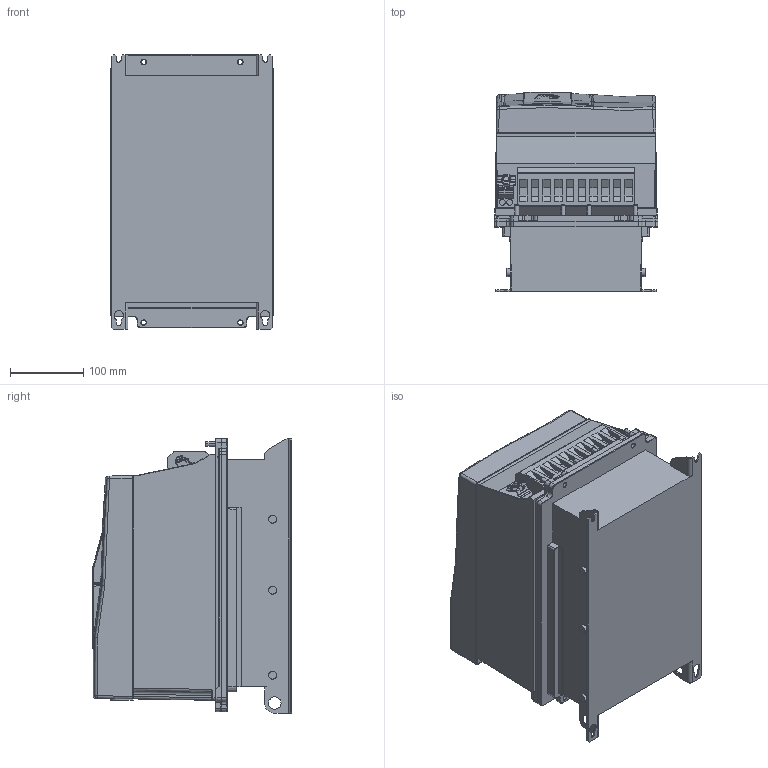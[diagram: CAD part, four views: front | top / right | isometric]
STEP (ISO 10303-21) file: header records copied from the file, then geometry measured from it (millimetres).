
FILE_DESCRIPTION (( 'STEP AP214' ), '1' );
FILE_NAME ('F6-4TR0-K000.STEP', '2020-12-08T11:03:10', ( '' ), ( '' ), 'SwSTEP 2.0', 'SolidWorks 2019', '' );
FILE_SCHEMA (( 'AUTOMOTIVE_DESIGN' ));
Length unit declared in the file: millimetre
Products named in the file (11): 10059764_000_Blindabdeckung (Kundenmodell); 10035735_000_Kundenmodell; 10059765_000; 10058413_000; 10061645_000; F6-4TR0-K000; 10058448_000; 10058468_000; 10045808_000_Basis Leistungsteil TR0 (Kundenmodell); 10061644_000_Deckel (Kundenmodell); 10032600_000_Kundenmodell
Assembly tree (10 placements, depth 4):
  F6-4TR0-K000
    10045808_000_Basis Leistungsteil TR0 (Kundenmodell)
      10058468_000
    10032600_000_Kundenmodell
      10061644_000_Deckel (Kundenmodell)
        10061645_000
      10058448_000
    10035735_000_Kundenmodell
      10059764_000_Blindabdeckung (Kundenmodell)
        10059765_000
      10058413_000
Bounding box: 224 x 272.2 x 375.2 mm (x, y, z)
Volume: 17451342.7 mm3; surface area: 893773 mm2
Topology: 11 solids, 30 shells, 2434 faces, 6290 edges, 3942 vertices
Faces by surface type: plane 1033, cylinder 592, bspline 517, torus 139, cone 113, sphere 40
Entity records: 95116 total; most frequent: CARTESIAN_POINT 38873, ORIENTED_EDGE 12446, DIRECTION 10288, EDGE_CURVE 6223, VERTEX_POINT 3940, VECTOR 3492, LINE 3492, AXIS2_PLACEMENT_3D 3398
